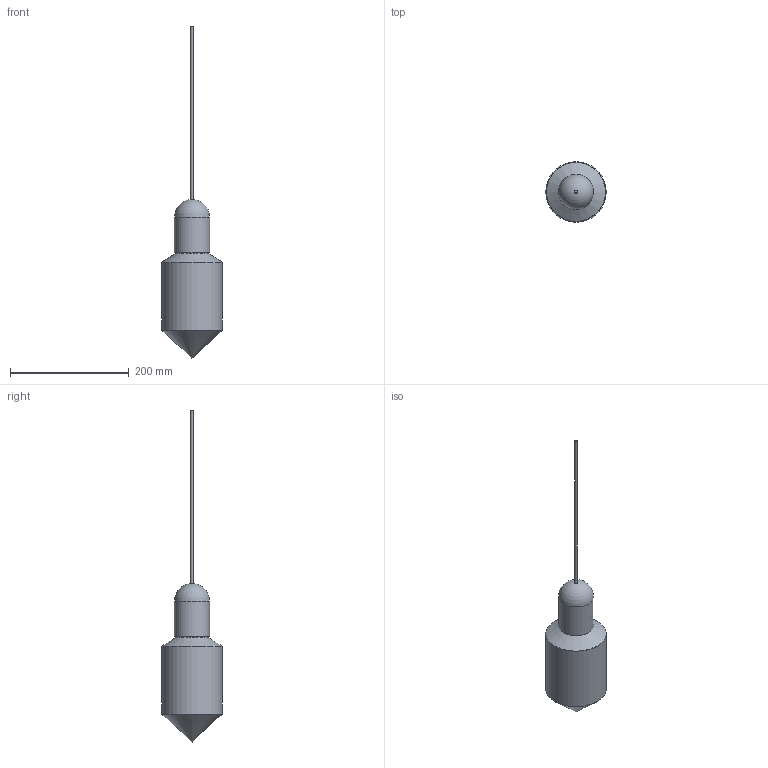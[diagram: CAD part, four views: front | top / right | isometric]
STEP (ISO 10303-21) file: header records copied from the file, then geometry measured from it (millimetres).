
FILE_DESCRIPTION(/* description */ ('','CAx-IF Rec.Pracs.---Representation and Presentation of Product Manufacturing Information (PMI)---4.0---2014-10-13'),/* implementation_level */ '2;1');
FILE_NAME(/* name */ 'Niche - Dart Petite - Placebo Pendant.step',/* time_stamp */ '2025-01-09T10:24:34-05:00',/* author */ (''),/* organization */ (''),/* preprocessor_version */ 'ST-DEVELOPER v20',/* originating_system */ 'Autodesk Translation Framework v13.20.0.188',/* authorisation */ '');
FILE_SCHEMA (('AP242_MANAGED_MODEL_BASED_3D_ENGINEERING_MIM_LF { 1 0 10303 442 1 1 4 }'));
Length unit declared in the file: inch
Products named in the file (4): Dart - Petite - Modular; Modular - Placebo - Bayonet Connector; Dart Petite Modular; Modular - Placedo - Cord Set
Assembly tree (3 placements, depth 2):
  Dart - Petite - Modular
    Modular - Placebo - Bayonet Connector
    Dart Petite Modular
    Modular - Placedo - Cord Set
Bounding box: 101.6 x 101.6 x 558.78 mm (x, y, z)
Volume: 142080.8 mm3; surface area: 161687.9 mm2
Topology: 5 solids, 5 shells, 102 faces, 271 edges, 178 vertices
Faces by surface type: plane 65, cylinder 27, torus 4, cone 4, sphere 2
Full cylindrical faces by diameter (mm): 4.572 x1, 5.715 x1, 37.592 x1, 42.926 x1, 46.482 x1, 51.385 x1, 53.925 x1, 56.032 x1, 59.08 x1, 99.06 x1, 101.6 x1
Entity records: 3409 total; most frequent: CARTESIAN_POINT 680, DIRECTION 557, ORIENTED_EDGE 538, EDGE_CURVE 269, AXIS2_PLACEMENT_3D 191, VERTEX_POINT 178, LINE 175, VECTOR 175
